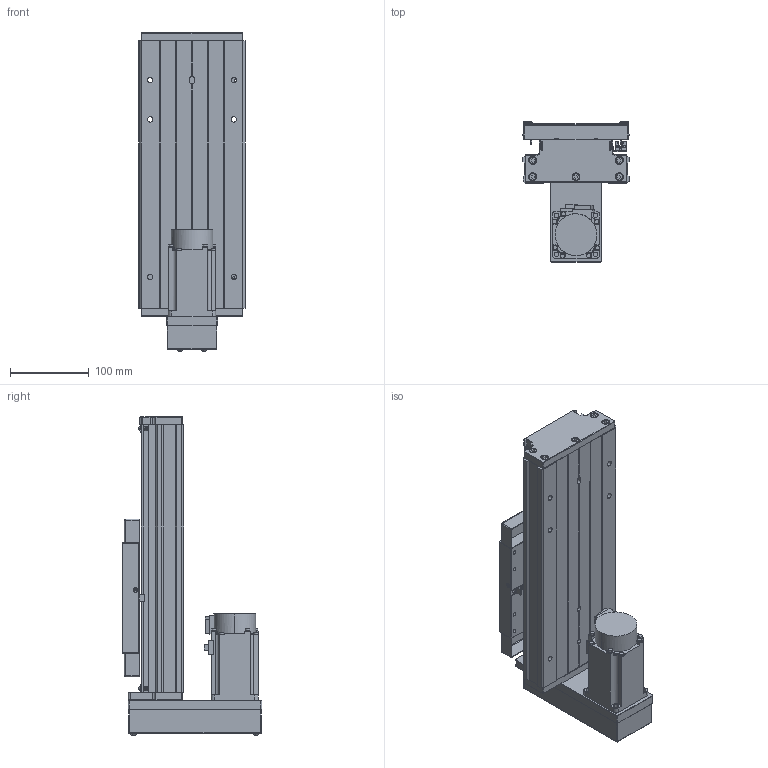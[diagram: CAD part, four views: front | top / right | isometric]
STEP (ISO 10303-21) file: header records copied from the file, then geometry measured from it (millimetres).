
FILE_DESCRIPTION (( 'STEP AP203' ), '1' );
FILE_NAME ('GTH14-100-BM-M40-C4.step', '2023-06-30T08:43:45', ( '微软用户' ), ( '微软中国' ), 'SwSTEP 2.0', 'SolidWorks 2020', '' );
FILE_SCHEMA (( 'CONFIG_CONTROL_DESIGN' ));
Length unit declared in the file: millimetre
Products named in the file (19): GTH14-005; GBT77-2000 M3×3; GTH14-033; GB1155-6X6; GTH14-031; GTH14-100-BM-M40-C4; GBT70.1 M5℅16; GBT 70.2-M3¡Á5_M3¡Á6; CTHA60-017; す晦芛蹟隊 M3℅5; GTH14-001_100; EE_SX911P_R; HG-KN43J-S100; GTH14-002_GTH14-002; CTHA60-016; GBT 70.2-M4¡Á35_M4¡Á35; GTH14-004; GBT 70.1-M3℅5; GTH14-015-2_CTHA86-015-2
Assembly tree (58 placements, depth 2):
  GTH14-100-BM-M40-C4
    GTH14-001_100
    GTH14-002_GTH14-002
    GTH14-004
    GTH14-005
    GB1155-6X6  x2
    GBT70.1 M5℅16  x10
    CTHA60-017  x3
    EE_SX911P_R  x3
    CTHA60-016  x2
    GBT 70.1-M3℅5  x6
    GBT77-2000 M3×3  x6
    GTH14-031
    GBT 70.2-M3¡Á5_M3¡Á6  x8
    す晦芛蹟隊 M3℅5  x6
    HG-KN43J-S100
    GBT 70.2-M4¡Á35_M4¡Á35  x4
    GTH14-015-2_CTHA86-015-2
    GTH14-033
Bounding box: 135 x 177.5 x 404.2 mm (x, y, z)
Volume: 2644281.7 mm3; surface area: 528142.2 mm2
Topology: 61 solids, 61 shells, 2433 faces, 5785 edges, 3562 vertices
Faces by surface type: plane 1303, cylinder 640, cone 314, torus 124, sphere 32, bspline 20
Entity records: 43542 total; most frequent: CARTESIAN_POINT 9757, DIRECTION 6369, ORIENTED_EDGE 6260, EDGE_CURVE 3130, AXIS2_PLACEMENT_3D 2166, LINE 2037, VECTOR 2037, VERTEX_POINT 1980
